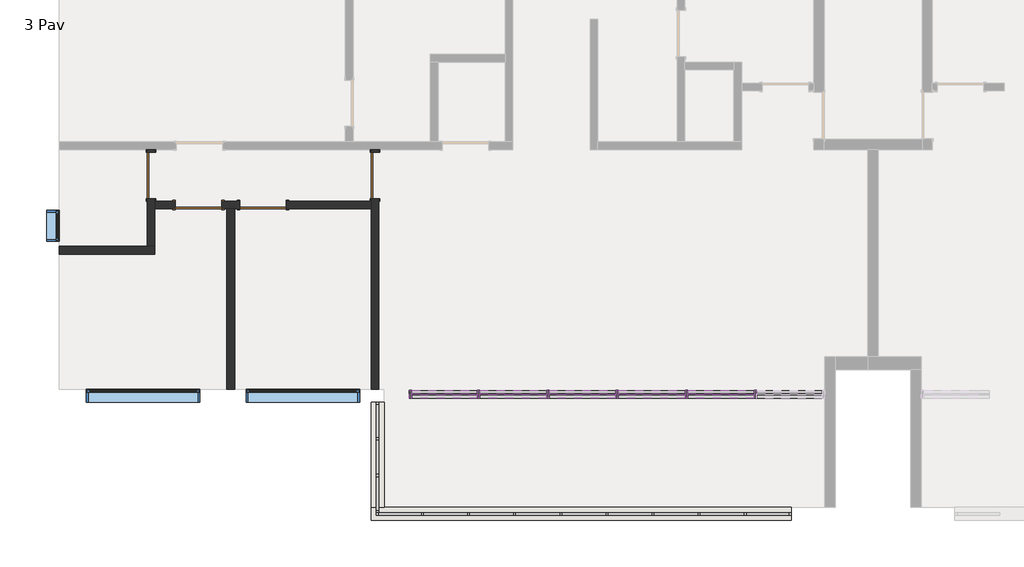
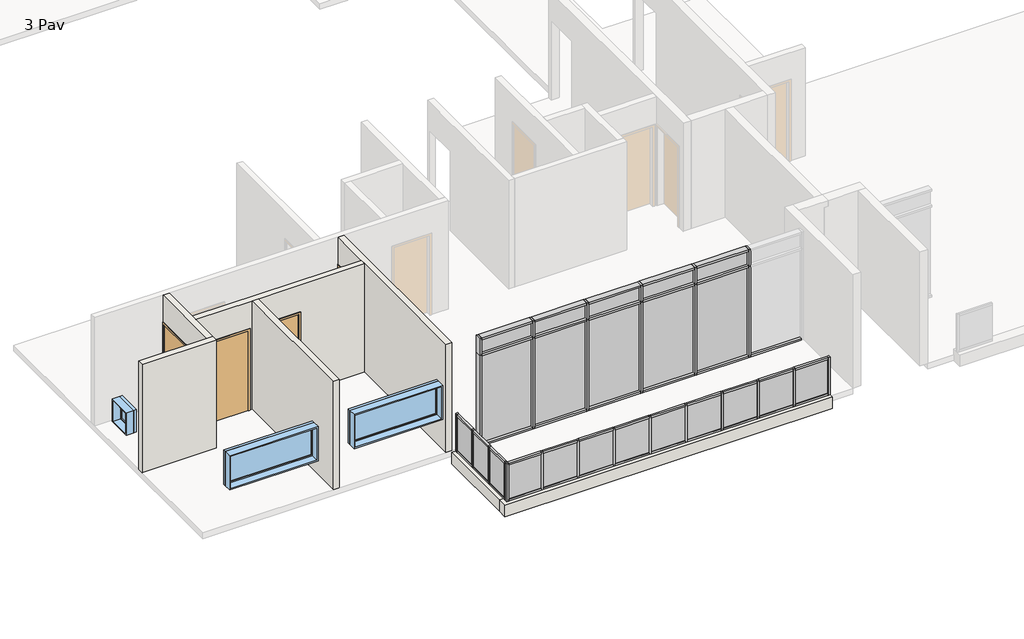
# One storey, part 1 of 6: 66 members, 22 plates, 7 walls, 4 doors, 3 windows.
"""IFC4 building model written with IfcOpenShell, lengths in millimetres."""

from ifc_helpers import new_model, si_unit, frame, origin, place, context, project, spatial, polyline, outline, extrude, faceted_brep, transform, mapped, element, save
from components import door_90_x_210_ee935524, door_90_x_210_565370b3, montante_retangular_50_mm_quadrado_84e40a56, montante_retangular_50_mm_quadrado_3d152aff, montante_retangular_50_mm_quadrado_a01005a4, montante_retangular_50_mm_quadrado_ddd80bd7, montante_retangular_50_mm_quadrado_4acded50, montante_retangular_50_mm_quadrado_237d7072, montante_retangular_50_x_150_mm_6217edde, montante_retangular_50_x_150_mm_a22249d7, montante_retangular_50_x_150_mm_6225e4e3, montante_retangular_50_x_150_mm_567eccab, montante_retangular_50_x_150_mm_1ca2bba2, montante_retangular_50_x_150_mm_6abf4531, montante_retangular_50_x_150_mm_0a8c3443, montante_retangular_50_x_150_mm_662c37b1, painel_do_sistema_0196877a, painel_do_sistema_2aa81470, painel_do_sistema_57ceaf50, painel_do_sistema_ab0ed719, painel_do_sistema_1ecb5f42, painel_do_sistema_49db1829, painel_do_sistema_5ea5287b, painel_do_sistema_7730abee, window_0610_x_0610_mm_da1d4716, window_220_x_90_cea65aae

model = new_model("IFC4")

# Units and contexts
model_context = context("Model", 3, world=origin())
ifc_project = project(units=[si_unit("LENGTHUNIT", "METRE", prefix="MILLI")], contexts=[model_context])

# Site, building, storey
site = spatial("IfcSite", under=ifc_project)
building = spatial("IfcBuilding", under=site)
storey = spatial("IfcBuildingStorey", under=building, Name="3 Pav", Elevation=9000.0)

# Doors
placement = place(None, origin())
door_90_x_210_shape = door_90_x_210_ee935524(model_context)
element("IfcDoor", 1, ObjectType="M_Descarga simples : 90 x 210", at=placement, inside=storey, context=model_context, shape_type="MappedRepresentation", body=[
    mapped(door_90_x_210_shape, transform((-10691.2265742, -8286.3385375, 9000.0), x_axis=(0.0, 1.0, 0.0), y_axis=(-1.0, 0.0, 0.0), z_axis=(0.0, 0.0, 1.0))),
])
element("IfcDoor", 2, ObjectType="M_Descarga simples : 90 x 210", at=placement, inside=storey, context=model_context, shape_type="MappedRepresentation", body=[
    mapped(door_90_x_210_shape, transform((-15041.2265742, -8286.3385375, 9000.0), x_axis=(0.0, 1.0, 0.0), y_axis=(-1.0, 0.0, 0.0), z_axis=(0.0, 0.0, 1.0))),
])
element("IfcDoor", 3, ObjectType="M_Descarga simples : 90 x 210", at=placement, inside=storey, context=model_context, shape_type="MappedRepresentation", body=[
    mapped(door_90_x_210_shape, transform((-12866.2265742, -8861.3385375, 9000.0), x_axis=(-1.0, 0.0, 0.0), y_axis=(0.0, -1.0, 0.0), z_axis=(0.0, 0.0, 1.0))),
])
door_90_x_210_2_shape = door_90_x_210_565370b3(model_context)
element("IfcDoor", 4, ObjectType="M_Descarga simples : 90 x 210", at=placement, inside=storey, context=model_context, shape_type="MappedRepresentation", body=[
    mapped(door_90_x_210_2_shape, transform((-14116.2265742, -8861.3385375, 9000.0), x_axis=(1.0, 0.0, 0.0), y_axis=(0.0, 1.0, 0.0), z_axis=(0.0, 0.0, 1.0))),
])

# Members
montante_retangular_50_mm_quadrado_shape = montante_retangular_50_mm_quadrado_84e40a56(model_context)
element("IfcMember", 5, ObjectType="Montante retangular : 50 mm Quadrado", at=placement, inside=storey, context=model_context, shape_type="MappedRepresentation", body=[
    mapped(montante_retangular_50_mm_quadrado_shape, transform((-3506.2265742, -14856.3385375, 9150.0), x_axis=(-1.0, 0.0, 0.0), y_axis=(0.0, 1.0, 0.0), z_axis=(0.0, 0.0, -1.0))),
])
element("IfcMember", 6, ObjectType="Montante retangular : 50 mm Quadrado", at=placement, inside=storey, context=model_context, shape_type="MappedRepresentation", body=[
    mapped(montante_retangular_50_mm_quadrado_shape, transform((-4401.2265742, -14856.3385375, 9150.0), x_axis=(-1.0, 0.0, 0.0), y_axis=(0.0, 1.0, 0.0), z_axis=(0.0, 0.0, -1.0))),
])
element("IfcMember", 7, ObjectType="Montante retangular : 50 mm Quadrado", at=placement, inside=storey, context=model_context, shape_type="MappedRepresentation", body=[
    mapped(montante_retangular_50_mm_quadrado_shape, transform((-5296.2265742, -14856.3385375, 9150.0), x_axis=(-1.0, 0.0, 0.0), y_axis=(0.0, 1.0, 0.0), z_axis=(0.0, 0.0, -1.0))),
])
element("IfcMember", 8, ObjectType="Montante retangular : 50 mm Quadrado", at=placement, inside=storey, context=model_context, shape_type="MappedRepresentation", body=[
    mapped(montante_retangular_50_mm_quadrado_shape, transform((-6191.2265742, -14856.3385375, 9150.0), x_axis=(-1.0, 0.0, 0.0), y_axis=(0.0, 1.0, 0.0), z_axis=(0.0, 0.0, -1.0))),
])
element("IfcMember", 9, ObjectType="Montante retangular : 50 mm Quadrado", at=placement, inside=storey, context=model_context, shape_type="MappedRepresentation", body=[
    mapped(montante_retangular_50_mm_quadrado_shape, transform((-7086.2265742, -14856.3385375, 9150.0), x_axis=(-1.0, 0.0, 0.0), y_axis=(0.0, 1.0, 0.0), z_axis=(0.0, 0.0, -1.0))),
])
element("IfcMember", 10, ObjectType="Montante retangular : 50 mm Quadrado", at=placement, inside=storey, context=model_context, shape_type="MappedRepresentation", body=[
    mapped(montante_retangular_50_mm_quadrado_shape, transform((-7981.2265742, -14856.3385375, 9150.0), x_axis=(-1.0, 0.0, 0.0), y_axis=(0.0, 1.0, 0.0), z_axis=(0.0, 0.0, -1.0))),
])
element("IfcMember", 11, ObjectType="Montante retangular : 50 mm Quadrado", at=placement, inside=storey, context=model_context, shape_type="MappedRepresentation", body=[
    mapped(montante_retangular_50_mm_quadrado_shape, transform((-8876.2265742, -14856.3385375, 9150.0), x_axis=(-1.0, 0.0, 0.0), y_axis=(0.0, 1.0, 0.0), z_axis=(0.0, 0.0, -1.0))),
])
element("IfcMember", 12, ObjectType="Montante retangular : 50 mm Quadrado", at=placement, inside=storey, context=model_context, shape_type="MappedRepresentation", body=[
    mapped(montante_retangular_50_mm_quadrado_shape, transform((-9771.2265742, -14856.3385375, 9150.0), x_axis=(-1.0, 0.0, 0.0), y_axis=(0.0, 1.0, 0.0), z_axis=(0.0, 0.0, -1.0))),
])
element("IfcMember", 13, ObjectType="Montante retangular : 50 mm Quadrado", at=placement, inside=storey, context=model_context, shape_type="MappedRepresentation", body=[
    mapped(montante_retangular_50_mm_quadrado_shape, transform((-10641.2265742, -14116.3385375, 9150.0), x_axis=(0.0, 1.0, 0.0), y_axis=(1.0, 0.0, 0.0), z_axis=(0.0, 0.0, -1.0))),
])
element("IfcMember", 14, ObjectType="Montante retangular : 50 mm Quadrado", at=placement, inside=storey, context=model_context, shape_type="MappedRepresentation", body=[
    mapped(montante_retangular_50_mm_quadrado_shape, transform((-10641.2265742, -13401.3385375, 9150.0), x_axis=(0.0, 1.0, 0.0), y_axis=(1.0, 0.0, 0.0), z_axis=(0.0, 0.0, -1.0))),
])
montante_retangular_50_mm_quadrado_2_shape = montante_retangular_50_mm_quadrado_3d152aff(model_context)
element("IfcMember", 15, ObjectType="Montante retangular : 50 mm Quadrado", at=placement, inside=storey, context=model_context, shape_type="MappedRepresentation", body=[
    mapped(montante_retangular_50_mm_quadrado_2_shape, transform((-10666.2265742, -14856.3385375, 9150.0), x_axis=(-1.0, 0.0, 0.0), y_axis=(0.0, 1.0, 0.0), z_axis=(0.0, 0.0, -1.0))),
])
element("IfcMember", 16, ObjectType="Montante retangular : 50 mm Quadrado", at=placement, inside=storey, context=model_context, shape_type="MappedRepresentation", body=[
    mapped(montante_retangular_50_mm_quadrado_2_shape, transform((-10641.2265742, -12686.3385375, 9150.0), x_axis=(0.0, 1.0, 0.0), y_axis=(1.0, 0.0, 0.0), z_axis=(0.0, 0.0, -1.0))),
])
element("IfcMember", 17, ObjectType="Montante retangular : 50 mm Quadrado", at=placement, inside=storey, context=model_context, shape_type="MappedRepresentation", body=[
    mapped(montante_retangular_50_mm_quadrado_2_shape, transform((-2611.2265742, -14856.3385375, 10150.0), x_axis=(1.0, 0.0, 0.0), y_axis=(0.0, 1.0, 0.0), z_axis=(0.0, 0.0, 1.0))),
])
element("IfcMember", 18, ObjectType="Montante retangular : 50 mm Quadrado", at=placement, inside=storey, context=model_context, shape_type="MappedRepresentation", body=[
    mapped(montante_retangular_50_mm_quadrado_2_shape, transform((-10641.2265742, -14831.3385375, 10150.0), x_axis=(0.0, -1.0, 0.0), y_axis=(1.0, 0.0, 0.0), z_axis=(0.0, 0.0, 1.0))),
])
montante_retangular_50_mm_quadrado_3_shape = montante_retangular_50_mm_quadrado_a01005a4(model_context)
element("IfcMember", 19, ObjectType="Montante retangular : 50 mm Quadrado", at=placement, inside=storey, context=model_context, shape_type="MappedRepresentation", body=[
    mapped(montante_retangular_50_mm_quadrado_3_shape, transform((-10641.2265742, -12736.3385375, 10150.0), x_axis=(0.0, 0.0, 1.0), y_axis=(1.0, 0.0, 0.0), z_axis=(0.0, 1.0, 0.0))),
])
element("IfcMember", 20, ObjectType="Montante retangular : 50 mm Quadrado", at=placement, inside=storey, context=model_context, shape_type="MappedRepresentation", body=[
    mapped(montante_retangular_50_mm_quadrado_3_shape, transform((-10641.2265742, -14141.3385375, 10150.0), x_axis=(0.0, 0.0, 1.0), y_axis=(1.0, 0.0, 0.0), z_axis=(0.0, 1.0, 0.0))),
])
montante_retangular_50_mm_quadrado_4_shape = montante_retangular_50_mm_quadrado_ddd80bd7(model_context)
element("IfcMember", 21, ObjectType="Montante retangular : 50 mm Quadrado", at=placement, inside=storey, context=model_context, shape_type="MappedRepresentation", body=[
    mapped(montante_retangular_50_mm_quadrado_4_shape, transform((-10641.2265742, -13426.3385375, 10150.0), x_axis=(0.0, 0.0, 1.0), y_axis=(1.0, 0.0, 0.0), z_axis=(0.0, 1.0, 0.0))),
])
element("IfcMember", 22, ObjectType="Montante retangular : 50 mm Quadrado", at=placement, inside=storey, context=model_context, shape_type="MappedRepresentation", body=[
    mapped(montante_retangular_50_mm_quadrado_3_shape, transform((-10641.2265742, -14781.3385375, 9150.0), x_axis=(0.0, 0.0, -1.0), y_axis=(1.0, 0.0, 0.0), z_axis=(0.0, -1.0, 0.0))),
])
element("IfcMember", 23, ObjectType="Montante retangular : 50 mm Quadrado", at=placement, inside=storey, context=model_context, shape_type="MappedRepresentation", body=[
    mapped(montante_retangular_50_mm_quadrado_3_shape, transform((-10641.2265742, -13376.3385375, 9150.0), x_axis=(0.0, 0.0, -1.0), y_axis=(1.0, 0.0, 0.0), z_axis=(0.0, -1.0, 0.0))),
])
element("IfcMember", 24, ObjectType="Montante retangular : 50 mm Quadrado", at=placement, inside=storey, context=model_context, shape_type="MappedRepresentation", body=[
    mapped(montante_retangular_50_mm_quadrado_4_shape, transform((-10641.2265742, -14091.3385375, 9150.0), x_axis=(0.0, 0.0, -1.0), y_axis=(1.0, 0.0, 0.0), z_axis=(0.0, -1.0, 0.0))),
])
montante_retangular_50_mm_quadrado_5_shape = montante_retangular_50_mm_quadrado_4acded50(model_context)
element("IfcMember", 25, ObjectType="Montante retangular : 50 mm Quadrado", at=placement, inside=storey, context=model_context, shape_type="MappedRepresentation", body=[
    mapped(montante_retangular_50_mm_quadrado_5_shape, transform((-10616.2265742, -14856.3385375, 10150.0), x_axis=(0.0, 0.0, 1.0), y_axis=(0.0, 1.0, 0.0), z_axis=(-1.0, 0.0, 0.0))),
])
element("IfcMember", 26, ObjectType="Montante retangular : 50 mm Quadrado", at=placement, inside=storey, context=model_context, shape_type="MappedRepresentation", body=[
    mapped(montante_retangular_50_mm_quadrado_5_shape, transform((-3481.2265742, -14856.3385375, 10150.0), x_axis=(0.0, 0.0, 1.0), y_axis=(0.0, 1.0, 0.0), z_axis=(-1.0, 0.0, 0.0))),
])
montante_retangular_50_mm_quadrado_6_shape = montante_retangular_50_mm_quadrado_237d7072(model_context)
element("IfcMember", 27, ObjectType="Montante retangular : 50 mm Quadrado", at=placement, inside=storey, context=model_context, shape_type="MappedRepresentation", body=[
    mapped(montante_retangular_50_mm_quadrado_6_shape, transform((-4376.2265742, -14856.3385375, 10150.0), x_axis=(0.0, 0.0, 1.0), y_axis=(0.0, 1.0, 0.0), z_axis=(-1.0, 0.0, 0.0))),
])
element("IfcMember", 28, ObjectType="Montante retangular : 50 mm Quadrado", at=placement, inside=storey, context=model_context, shape_type="MappedRepresentation", body=[
    mapped(montante_retangular_50_mm_quadrado_6_shape, transform((-5271.2265742, -14856.3385375, 10150.0), x_axis=(0.0, 0.0, 1.0), y_axis=(0.0, 1.0, 0.0), z_axis=(-1.0, 0.0, 0.0))),
])
element("IfcMember", 29, ObjectType="Montante retangular : 50 mm Quadrado", at=placement, inside=storey, context=model_context, shape_type="MappedRepresentation", body=[
    mapped(montante_retangular_50_mm_quadrado_6_shape, transform((-6166.2265742, -14856.3385375, 10150.0), x_axis=(0.0, 0.0, 1.0), y_axis=(0.0, 1.0, 0.0), z_axis=(-1.0, 0.0, 0.0))),
])
element("IfcMember", 30, ObjectType="Montante retangular : 50 mm Quadrado", at=placement, inside=storey, context=model_context, shape_type="MappedRepresentation", body=[
    mapped(montante_retangular_50_mm_quadrado_6_shape, transform((-7061.2265742, -14856.3385375, 10150.0), x_axis=(0.0, 0.0, 1.0), y_axis=(0.0, 1.0, 0.0), z_axis=(-1.0, 0.0, 0.0))),
])
element("IfcMember", 31, ObjectType="Montante retangular : 50 mm Quadrado", at=placement, inside=storey, context=model_context, shape_type="MappedRepresentation", body=[
    mapped(montante_retangular_50_mm_quadrado_6_shape, transform((-7956.2265742, -14856.3385375, 10150.0), x_axis=(0.0, 0.0, 1.0), y_axis=(0.0, 1.0, 0.0), z_axis=(-1.0, 0.0, 0.0))),
])
element("IfcMember", 32, ObjectType="Montante retangular : 50 mm Quadrado", at=placement, inside=storey, context=model_context, shape_type="MappedRepresentation", body=[
    mapped(montante_retangular_50_mm_quadrado_6_shape, transform((-8851.2265742, -14856.3385375, 10150.0), x_axis=(0.0, 0.0, 1.0), y_axis=(0.0, 1.0, 0.0), z_axis=(-1.0, 0.0, 0.0))),
])
element("IfcMember", 33, ObjectType="Montante retangular : 50 mm Quadrado", at=placement, inside=storey, context=model_context, shape_type="MappedRepresentation", body=[
    mapped(montante_retangular_50_mm_quadrado_6_shape, transform((-9746.2265742, -14856.3385375, 10150.0), x_axis=(0.0, 0.0, 1.0), y_axis=(0.0, 1.0, 0.0), z_axis=(-1.0, 0.0, 0.0))),
])
element("IfcMember", 34, ObjectType="Montante retangular : 50 mm Quadrado", at=placement, inside=storey, context=model_context, shape_type="MappedRepresentation", body=[
    mapped(montante_retangular_50_mm_quadrado_5_shape, transform((-2661.2265742, -14856.3385375, 9150.0), x_axis=(0.0, 0.0, -1.0), y_axis=(0.0, 1.0, 0.0), z_axis=(1.0, 0.0, 0.0))),
])
element("IfcMember", 35, ObjectType="Montante retangular : 50 mm Quadrado", at=placement, inside=storey, context=model_context, shape_type="MappedRepresentation", body=[
    mapped(montante_retangular_50_mm_quadrado_5_shape, transform((-9796.2265742, -14856.3385375, 9150.0), x_axis=(0.0, 0.0, -1.0), y_axis=(0.0, 1.0, 0.0), z_axis=(1.0, 0.0, 0.0))),
])
element("IfcMember", 36, ObjectType="Montante retangular : 50 mm Quadrado", at=placement, inside=storey, context=model_context, shape_type="MappedRepresentation", body=[
    mapped(montante_retangular_50_mm_quadrado_6_shape, transform((-3531.2265742, -14856.3385375, 9150.0), x_axis=(0.0, 0.0, -1.0), y_axis=(0.0, 1.0, 0.0), z_axis=(1.0, 0.0, 0.0))),
])
element("IfcMember", 37, ObjectType="Montante retangular : 50 mm Quadrado", at=placement, inside=storey, context=model_context, shape_type="MappedRepresentation", body=[
    mapped(montante_retangular_50_mm_quadrado_6_shape, transform((-4426.2265742, -14856.3385375, 9150.0), x_axis=(0.0, 0.0, -1.0), y_axis=(0.0, 1.0, 0.0), z_axis=(1.0, 0.0, 0.0))),
])
element("IfcMember", 38, ObjectType="Montante retangular : 50 mm Quadrado", at=placement, inside=storey, context=model_context, shape_type="MappedRepresentation", body=[
    mapped(montante_retangular_50_mm_quadrado_6_shape, transform((-5321.2265742, -14856.3385375, 9150.0), x_axis=(0.0, 0.0, -1.0), y_axis=(0.0, 1.0, 0.0), z_axis=(1.0, 0.0, 0.0))),
])
element("IfcMember", 39, ObjectType="Montante retangular : 50 mm Quadrado", at=placement, inside=storey, context=model_context, shape_type="MappedRepresentation", body=[
    mapped(montante_retangular_50_mm_quadrado_6_shape, transform((-6216.2265742, -14856.3385375, 9150.0), x_axis=(0.0, 0.0, -1.0), y_axis=(0.0, 1.0, 0.0), z_axis=(1.0, 0.0, 0.0))),
])
element("IfcMember", 40, ObjectType="Montante retangular : 50 mm Quadrado", at=placement, inside=storey, context=model_context, shape_type="MappedRepresentation", body=[
    mapped(montante_retangular_50_mm_quadrado_6_shape, transform((-7111.2265742, -14856.3385375, 9150.0), x_axis=(0.0, 0.0, -1.0), y_axis=(0.0, 1.0, 0.0), z_axis=(1.0, 0.0, 0.0))),
])
element("IfcMember", 41, ObjectType="Montante retangular : 50 mm Quadrado", at=placement, inside=storey, context=model_context, shape_type="MappedRepresentation", body=[
    mapped(montante_retangular_50_mm_quadrado_6_shape, transform((-8006.2265742, -14856.3385375, 9150.0), x_axis=(0.0, 0.0, -1.0), y_axis=(0.0, 1.0, 0.0), z_axis=(1.0, 0.0, 0.0))),
])
element("IfcMember", 42, ObjectType="Montante retangular : 50 mm Quadrado", at=placement, inside=storey, context=model_context, shape_type="MappedRepresentation", body=[
    mapped(montante_retangular_50_mm_quadrado_6_shape, transform((-8901.2265742, -14856.3385375, 9150.0), x_axis=(0.0, 0.0, -1.0), y_axis=(0.0, 1.0, 0.0), z_axis=(1.0, 0.0, 0.0))),
])
montante_retangular_50_x_150_mm_shape = montante_retangular_50_x_150_mm_6217edde(model_context)
element("IfcMember", 43, ObjectType="Montante retangular : 50 x 150 mm", at=placement, inside=storey, context=model_context, shape_type="MappedRepresentation", body=[
    mapped(montante_retangular_50_x_150_mm_shape, transform((-8707.0599075, -12536.3385375, 11850.0), x_axis=(0.0, 0.0, 1.0), y_axis=(0.0, -1.0, 0.0), z_axis=(1.0, 0.0, 0.0))),
])
montante_retangular_50_x_150_mm_2_shape = montante_retangular_50_x_150_mm_a22249d7(model_context)
element("IfcMember", 44, ObjectType="Montante retangular : 50 x 150 mm", at=placement, inside=storey, context=model_context, shape_type="MappedRepresentation", body=[
    mapped(montante_retangular_50_x_150_mm_2_shape, transform((-7362.8932408, -12536.3385375, 11850.0), x_axis=(0.0, 0.0, 1.0), y_axis=(0.0, -1.0, 0.0), z_axis=(1.0, 0.0, 0.0))),
])
element("IfcMember", 45, ObjectType="Montante retangular : 50 x 150 mm", at=placement, inside=storey, context=model_context, shape_type="MappedRepresentation", body=[
    mapped(montante_retangular_50_x_150_mm_2_shape, transform((-6018.7265742, -12536.3385375, 11850.0), x_axis=(0.0, 0.0, 1.0), y_axis=(0.0, -1.0, 0.0), z_axis=(1.0, 0.0, 0.0))),
])
element("IfcMember", 46, ObjectType="Montante retangular : 50 x 150 mm", at=placement, inside=storey, context=model_context, shape_type="MappedRepresentation", body=[
    mapped(montante_retangular_50_x_150_mm_2_shape, transform((-4674.5599075, -12536.3385375, 11850.0), x_axis=(0.0, 0.0, 1.0), y_axis=(0.0, -1.0, 0.0), z_axis=(1.0, 0.0, 0.0))),
])
element("IfcMember", 47, ObjectType="Montante retangular : 50 x 150 mm", at=placement, inside=storey, context=model_context, shape_type="MappedRepresentation", body=[
    mapped(montante_retangular_50_x_150_mm_2_shape, transform((-3330.3932408, -12536.3385375, 11850.0), x_axis=(0.0, 0.0, 1.0), y_axis=(0.0, -1.0, 0.0), z_axis=(1.0, 0.0, 0.0))),
])
element("IfcMember", 48, ObjectType="Montante retangular : 50 x 150 mm", at=placement, inside=storey, context=model_context, shape_type="MappedRepresentation", body=[
    mapped(montante_retangular_50_x_150_mm_shape, transform((-9976.2265742, -12536.3385375, 9000.0), x_axis=(0.0, 0.0, -1.0), y_axis=(0.0, -1.0, 0.0), z_axis=(-1.0, 0.0, 0.0))),
])
element("IfcMember", 49, ObjectType="Montante retangular : 50 x 150 mm", at=placement, inside=storey, context=model_context, shape_type="MappedRepresentation", body=[
    mapped(montante_retangular_50_x_150_mm_shape, transform((-3280.3932408, -12536.3385375, 9000.0), x_axis=(0.0, 0.0, -1.0), y_axis=(0.0, -1.0, 0.0), z_axis=(-1.0, 0.0, 0.0))),
])
element("IfcMember", 50, ObjectType="Montante retangular : 50 x 150 mm", at=placement, inside=storey, context=model_context, shape_type="MappedRepresentation", body=[
    mapped(montante_retangular_50_x_150_mm_2_shape, transform((-8657.0599075, -12536.3385375, 9000.0), x_axis=(0.0, 0.0, -1.0), y_axis=(0.0, -1.0, 0.0), z_axis=(-1.0, 0.0, 0.0))),
])
element("IfcMember", 51, ObjectType="Montante retangular : 50 x 150 mm", at=placement, inside=storey, context=model_context, shape_type="MappedRepresentation", body=[
    mapped(montante_retangular_50_x_150_mm_2_shape, transform((-7312.8932408, -12536.3385375, 9000.0), x_axis=(0.0, 0.0, -1.0), y_axis=(0.0, -1.0, 0.0), z_axis=(-1.0, 0.0, 0.0))),
])
element("IfcMember", 52, ObjectType="Montante retangular : 50 x 150 mm", at=placement, inside=storey, context=model_context, shape_type="MappedRepresentation", body=[
    mapped(montante_retangular_50_x_150_mm_2_shape, transform((-5968.7265742, -12536.3385375, 9000.0), x_axis=(0.0, 0.0, -1.0), y_axis=(0.0, -1.0, 0.0), z_axis=(-1.0, 0.0, 0.0))),
])
element("IfcMember", 53, ObjectType="Montante retangular : 50 x 150 mm", at=placement, inside=storey, context=model_context, shape_type="MappedRepresentation", body=[
    mapped(montante_retangular_50_x_150_mm_2_shape, transform((-4624.5599075, -12536.3385375, 9000.0), x_axis=(0.0, 0.0, -1.0), y_axis=(0.0, -1.0, 0.0), z_axis=(-1.0, 0.0, 0.0))),
])
montante_retangular_50_x_150_mm_3_shape = montante_retangular_50_x_150_mm_6225e4e3(model_context)
element("IfcMember", 54, ObjectType="Montante retangular : 50 x 150 mm", at=placement, inside=storey, context=model_context, shape_type="MappedRepresentation", body=[
    mapped(montante_retangular_50_x_150_mm_3_shape, transform((-8682.0599075, -12536.3385375, 9000.0), x_axis=(1.0, 0.0, 0.0), y_axis=(0.0, -1.0, 0.0), z_axis=(0.0, 0.0, -1.0))),
])
element("IfcMember", 55, ObjectType="Montante retangular : 50 x 150 mm", at=placement, inside=storey, context=model_context, shape_type="MappedRepresentation", body=[
    mapped(montante_retangular_50_x_150_mm_3_shape, transform((-7337.8932408, -12536.3385375, 9000.0), x_axis=(1.0, 0.0, 0.0), y_axis=(0.0, -1.0, 0.0), z_axis=(0.0, 0.0, -1.0))),
])
element("IfcMember", 56, ObjectType="Montante retangular : 50 x 150 mm", at=placement, inside=storey, context=model_context, shape_type="MappedRepresentation", body=[
    mapped(montante_retangular_50_x_150_mm_3_shape, transform((-5993.7265742, -12536.3385375, 9000.0), x_axis=(1.0, 0.0, 0.0), y_axis=(0.0, -1.0, 0.0), z_axis=(0.0, 0.0, -1.0))),
])
element("IfcMember", 57, ObjectType="Montante retangular : 50 x 150 mm", at=placement, inside=storey, context=model_context, shape_type="MappedRepresentation", body=[
    mapped(montante_retangular_50_x_150_mm_3_shape, transform((-4649.5599075, -12536.3385375, 9000.0), x_axis=(1.0, 0.0, 0.0), y_axis=(0.0, -1.0, 0.0), z_axis=(0.0, 0.0, -1.0))),
])
element("IfcMember", 58, ObjectType="Montante retangular : 50 x 150 mm", at=placement, inside=storey, context=model_context, shape_type="MappedRepresentation", body=[
    mapped(montante_retangular_50_x_150_mm_3_shape, transform((-3305.3932408, -12536.3385375, 9000.0), x_axis=(1.0, 0.0, 0.0), y_axis=(0.0, -1.0, 0.0), z_axis=(0.0, 0.0, -1.0))),
])
montante_retangular_50_x_150_mm_4_shape = montante_retangular_50_x_150_mm_567eccab(model_context)
element("IfcMember", 59, ObjectType="Montante retangular : 50 x 150 mm", at=placement, inside=storey, context=model_context, shape_type="MappedRepresentation", body=[
    mapped(montante_retangular_50_x_150_mm_4_shape, transform((-8682.0599075, -12536.3385375, 11400.0), x_axis=(1.0, 0.0, 0.0), y_axis=(0.0, -1.0, 0.0), z_axis=(0.0, 0.0, -1.0))),
])
element("IfcMember", 60, ObjectType="Montante retangular : 50 x 150 mm", at=placement, inside=storey, context=model_context, shape_type="MappedRepresentation", body=[
    mapped(montante_retangular_50_x_150_mm_4_shape, transform((-7337.8932408, -12536.3385375, 11400.0), x_axis=(1.0, 0.0, 0.0), y_axis=(0.0, -1.0, 0.0), z_axis=(0.0, 0.0, -1.0))),
])
element("IfcMember", 61, ObjectType="Montante retangular : 50 x 150 mm", at=placement, inside=storey, context=model_context, shape_type="MappedRepresentation", body=[
    mapped(montante_retangular_50_x_150_mm_4_shape, transform((-5993.7265742, -12536.3385375, 11400.0), x_axis=(1.0, 0.0, 0.0), y_axis=(0.0, -1.0, 0.0), z_axis=(0.0, 0.0, -1.0))),
])
element("IfcMember", 62, ObjectType="Montante retangular : 50 x 150 mm", at=placement, inside=storey, context=model_context, shape_type="MappedRepresentation", body=[
    mapped(montante_retangular_50_x_150_mm_4_shape, transform((-4649.5599075, -12536.3385375, 11400.0), x_axis=(1.0, 0.0, 0.0), y_axis=(0.0, -1.0, 0.0), z_axis=(0.0, 0.0, -1.0))),
])
element("IfcMember", 63, ObjectType="Montante retangular : 50 x 150 mm", at=placement, inside=storey, context=model_context, shape_type="MappedRepresentation", body=[
    mapped(montante_retangular_50_x_150_mm_4_shape, transform((-3305.3932408, -12536.3385375, 11400.0), x_axis=(1.0, 0.0, 0.0), y_axis=(0.0, -1.0, 0.0), z_axis=(0.0, 0.0, -1.0))),
])
montante_retangular_50_x_150_mm_5_shape = montante_retangular_50_x_150_mm_1ca2bba2(model_context)
element("IfcMember", 64, ObjectType="Montante retangular : 50 x 150 mm", at=placement, inside=storey, context=model_context, shape_type="MappedRepresentation", body=[
    mapped(montante_retangular_50_x_150_mm_5_shape, transform((-8707.0599075, -12536.3385375, 11400.0), x_axis=(0.0, 0.0, 1.0), y_axis=(0.0, -1.0, 0.0), z_axis=(1.0, 0.0, 0.0))),
])
montante_retangular_50_x_150_mm_6_shape = montante_retangular_50_x_150_mm_6abf4531(model_context)
element("IfcMember", 65, ObjectType="Montante retangular : 50 x 150 mm", at=placement, inside=storey, context=model_context, shape_type="MappedRepresentation", body=[
    mapped(montante_retangular_50_x_150_mm_6_shape, transform((-7362.8932408, -12536.3385375, 11400.0), x_axis=(0.0, 0.0, 1.0), y_axis=(0.0, -1.0, 0.0), z_axis=(1.0, 0.0, 0.0))),
])
element("IfcMember", 66, ObjectType="Montante retangular : 50 x 150 mm", at=placement, inside=storey, context=model_context, shape_type="MappedRepresentation", body=[
    mapped(montante_retangular_50_x_150_mm_6_shape, transform((-6018.7265742, -12536.3385375, 11400.0), x_axis=(0.0, 0.0, 1.0), y_axis=(0.0, -1.0, 0.0), z_axis=(1.0, 0.0, 0.0))),
])
element("IfcMember", 67, ObjectType="Montante retangular : 50 x 150 mm", at=placement, inside=storey, context=model_context, shape_type="MappedRepresentation", body=[
    mapped(montante_retangular_50_x_150_mm_6_shape, transform((-4674.5599075, -12536.3385375, 11400.0), x_axis=(0.0, 0.0, 1.0), y_axis=(0.0, -1.0, 0.0), z_axis=(1.0, 0.0, 0.0))),
])
element("IfcMember", 68, ObjectType="Montante retangular : 50 x 150 mm", at=placement, inside=storey, context=model_context, shape_type="MappedRepresentation", body=[
    mapped(montante_retangular_50_x_150_mm_6_shape, transform((-3330.3932408, -12536.3385375, 11400.0), x_axis=(0.0, 0.0, 1.0), y_axis=(0.0, -1.0, 0.0), z_axis=(1.0, 0.0, 0.0))),
])
montante_retangular_50_x_150_mm_7_shape = montante_retangular_50_x_150_mm_0a8c3443(model_context)
element("IfcMember", 69, ObjectType="Montante retangular : 50 x 150 mm", at=placement, inside=storey, context=model_context, shape_type="MappedRepresentation", body=[
    mapped(montante_retangular_50_x_150_mm_7_shape, transform((-10026.2265742, -12536.3385375, 11850.0), x_axis=(-1.0, 0.0, 0.0), y_axis=(0.0, -1.0, 0.0), z_axis=(0.0, 0.0, 1.0))),
])
montante_retangular_50_x_150_mm_8_shape = montante_retangular_50_x_150_mm_662c37b1(model_context)
element("IfcMember", 70, ObjectType="Montante retangular : 50 x 150 mm", at=placement, inside=storey, context=model_context, shape_type="MappedRepresentation", body=[
    mapped(montante_retangular_50_x_150_mm_8_shape, transform((-10026.2265742, -12536.3385375, 11400.0), x_axis=(-1.0, 0.0, 0.0), y_axis=(0.0, -1.0, 0.0), z_axis=(0.0, 0.0, 1.0))),
])

# Plates
painel_do_sistema_shape = painel_do_sistema_0196877a(model_context)
element("IfcPlate", 71, ObjectType="Painel do sistema : Envidraçado", at=placement, inside=storey, context=model_context, shape_type="MappedRepresentation", body=[
    mapped(painel_do_sistema_shape, transform((-10641.2265742, -14461.3385375, 9200.0), x_axis=(0.0, 1.0, 0.0), y_axis=(-1.0, 0.0, 0.0), z_axis=(0.0, 0.0, 1.0))),
])
element("IfcPlate", 72, ObjectType="Painel do sistema : Envidraçado", at=placement, inside=storey, context=model_context, shape_type="MappedRepresentation", body=[
    mapped(painel_do_sistema_shape, transform((-10641.2265742, -13056.3385375, 9200.0), x_axis=(0.0, 1.0, 0.0), y_axis=(-1.0, 0.0, 0.0), z_axis=(0.0, 0.0, 1.0))),
])
painel_do_sistema_2_shape = painel_do_sistema_2aa81470(model_context)
element("IfcPlate", 73, ObjectType="Painel do sistema : Envidraçado", at=placement, inside=storey, context=model_context, shape_type="MappedRepresentation", body=[
    mapped(painel_do_sistema_2_shape, transform((-10641.2265742, -13758.8385375, 9200.0), x_axis=(0.0, 1.0, 0.0), y_axis=(-1.0, 0.0, 0.0), z_axis=(0.0, 0.0, 1.0))),
])
painel_do_sistema_3_shape = painel_do_sistema_57ceaf50(model_context)
element("IfcPlate", 74, ObjectType="Painel do sistema : Envidraçado", at=placement, inside=storey, context=model_context, shape_type="MappedRepresentation", body=[
    mapped(painel_do_sistema_3_shape, transform((-3071.2265742, -14856.3385375, 9200.0), x_axis=(-1.0, 0.0, 0.0), y_axis=(0.0, -1.0, 0.0), z_axis=(0.0, 0.0, 1.0))),
])
element("IfcPlate", 75, ObjectType="Painel do sistema : Envidraçado", at=placement, inside=storey, context=model_context, shape_type="MappedRepresentation", body=[
    mapped(painel_do_sistema_3_shape, transform((-10206.2265742, -14856.3385375, 9200.0), x_axis=(-1.0, 0.0, 0.0), y_axis=(0.0, -1.0, 0.0), z_axis=(0.0, 0.0, 1.0))),
])
painel_do_sistema_4_shape = painel_do_sistema_ab0ed719(model_context)
element("IfcPlate", 76, ObjectType="Painel do sistema : Envidraçado", at=placement, inside=storey, context=model_context, shape_type="MappedRepresentation", body=[
    mapped(painel_do_sistema_4_shape, transform((-3953.7265742, -14856.3385375, 9200.0), x_axis=(-1.0, 0.0, 0.0), y_axis=(0.0, -1.0, 0.0), z_axis=(0.0, 0.0, 1.0))),
])
element("IfcPlate", 77, ObjectType="Painel do sistema : Envidraçado", at=placement, inside=storey, context=model_context, shape_type="MappedRepresentation", body=[
    mapped(painel_do_sistema_4_shape, transform((-4848.7265742, -14856.3385375, 9200.0), x_axis=(-1.0, 0.0, 0.0), y_axis=(0.0, -1.0, 0.0), z_axis=(0.0, 0.0, 1.0))),
])
element("IfcPlate", 78, ObjectType="Painel do sistema : Envidraçado", at=placement, inside=storey, context=model_context, shape_type="MappedRepresentation", body=[
    mapped(painel_do_sistema_4_shape, transform((-5743.7265742, -14856.3385375, 9200.0), x_axis=(-1.0, 0.0, 0.0), y_axis=(0.0, -1.0, 0.0), z_axis=(0.0, 0.0, 1.0))),
])
element("IfcPlate", 79, ObjectType="Painel do sistema : Envidraçado", at=placement, inside=storey, context=model_context, shape_type="MappedRepresentation", body=[
    mapped(painel_do_sistema_4_shape, transform((-6638.7265742, -14856.3385375, 9200.0), x_axis=(-1.0, 0.0, 0.0), y_axis=(0.0, -1.0, 0.0), z_axis=(0.0, 0.0, 1.0))),
])
element("IfcPlate", 80, ObjectType="Painel do sistema : Envidraçado", at=placement, inside=storey, context=model_context, shape_type="MappedRepresentation", body=[
    mapped(painel_do_sistema_4_shape, transform((-7533.7265742, -14856.3385375, 9200.0), x_axis=(-1.0, 0.0, 0.0), y_axis=(0.0, -1.0, 0.0), z_axis=(0.0, 0.0, 1.0))),
])
element("IfcPlate", 81, ObjectType="Painel do sistema : Envidraçado", at=placement, inside=storey, context=model_context, shape_type="MappedRepresentation", body=[
    mapped(painel_do_sistema_4_shape, transform((-8428.7265742, -14856.3385375, 9200.0), x_axis=(-1.0, 0.0, 0.0), y_axis=(0.0, -1.0, 0.0), z_axis=(0.0, 0.0, 1.0))),
])
element("IfcPlate", 82, ObjectType="Painel do sistema : Envidraçado", at=placement, inside=storey, context=model_context, shape_type="MappedRepresentation", body=[
    mapped(painel_do_sistema_4_shape, transform((-9323.7265742, -14856.3385375, 9200.0), x_axis=(-1.0, 0.0, 0.0), y_axis=(0.0, -1.0, 0.0), z_axis=(0.0, 0.0, 1.0))),
])
painel_do_sistema_5_shape = painel_do_sistema_1ecb5f42(model_context)
element("IfcPlate", 83, ObjectType="Painel do sistema : Envidraçado", at=placement, inside=storey, context=model_context, shape_type="MappedRepresentation", body=[
    mapped(painel_do_sistema_5_shape, transform((-9341.6432408, -12536.3385375, 9050.0), x_axis=(1.0, 0.0, 0.0), y_axis=(0.0, 1.0, 0.0), z_axis=(0.0, 0.0, 1.0))),
])
painel_do_sistema_6_shape = painel_do_sistema_49db1829(model_context)
element("IfcPlate", 84, ObjectType="Painel do sistema : Envidraçado", at=placement, inside=storey, context=model_context, shape_type="MappedRepresentation", body=[
    mapped(painel_do_sistema_6_shape, transform((-8009.9765742, -12536.3385375, 9050.0), x_axis=(1.0, 0.0, 0.0), y_axis=(0.0, 1.0, 0.0), z_axis=(0.0, 0.0, 1.0))),
])
element("IfcPlate", 85, ObjectType="Painel do sistema : Envidraçado", at=placement, inside=storey, context=model_context, shape_type="MappedRepresentation", body=[
    mapped(painel_do_sistema_6_shape, transform((-6665.8099075, -12536.3385375, 9050.0), x_axis=(1.0, 0.0, 0.0), y_axis=(0.0, 1.0, 0.0), z_axis=(0.0, 0.0, 1.0))),
])
element("IfcPlate", 86, ObjectType="Painel do sistema : Envidraçado", at=placement, inside=storey, context=model_context, shape_type="MappedRepresentation", body=[
    mapped(painel_do_sistema_6_shape, transform((-5321.6432408, -12536.3385375, 9050.0), x_axis=(1.0, 0.0, 0.0), y_axis=(0.0, 1.0, 0.0), z_axis=(0.0, 0.0, 1.0))),
])
element("IfcPlate", 87, ObjectType="Painel do sistema : Envidraçado", at=placement, inside=storey, context=model_context, shape_type="MappedRepresentation", body=[
    mapped(painel_do_sistema_6_shape, transform((-3977.4765742, -12536.3385375, 9050.0), x_axis=(1.0, 0.0, 0.0), y_axis=(0.0, 1.0, 0.0), z_axis=(0.0, 0.0, 1.0))),
])
painel_do_sistema_7_shape = painel_do_sistema_5ea5287b(model_context)
element("IfcPlate", 88, ObjectType="Painel do sistema : Envidraçado", at=placement, inside=storey, context=model_context, shape_type="MappedRepresentation", body=[
    mapped(painel_do_sistema_7_shape, transform((-9341.6432408, -12536.3385375, 11425.0), x_axis=(1.0, 0.0, 0.0), y_axis=(0.0, 1.0, 0.0), z_axis=(0.0, 0.0, 1.0))),
])
painel_do_sistema_8_shape = painel_do_sistema_7730abee(model_context)
element("IfcPlate", 89, ObjectType="Painel do sistema : Envidraçado", at=placement, inside=storey, context=model_context, shape_type="MappedRepresentation", body=[
    mapped(painel_do_sistema_8_shape, transform((-8009.9765742, -12536.3385375, 11425.0), x_axis=(1.0, 0.0, 0.0), y_axis=(0.0, 1.0, 0.0), z_axis=(0.0, 0.0, 1.0))),
])
element("IfcPlate", 90, ObjectType="Painel do sistema : Envidraçado", at=placement, inside=storey, context=model_context, shape_type="MappedRepresentation", body=[
    mapped(painel_do_sistema_8_shape, transform((-6665.8099075, -12536.3385375, 11425.0), x_axis=(1.0, 0.0, 0.0), y_axis=(0.0, 1.0, 0.0), z_axis=(0.0, 0.0, 1.0))),
])
element("IfcPlate", 91, ObjectType="Painel do sistema : Envidraçado", at=placement, inside=storey, context=model_context, shape_type="MappedRepresentation", body=[
    mapped(painel_do_sistema_8_shape, transform((-5321.6432408, -12536.3385375, 11425.0), x_axis=(1.0, 0.0, 0.0), y_axis=(0.0, 1.0, 0.0), z_axis=(0.0, 0.0, 1.0))),
])
element("IfcPlate", 92, ObjectType="Painel do sistema : Envidraçado", at=placement, inside=storey, context=model_context, shape_type="MappedRepresentation", body=[
    mapped(painel_do_sistema_8_shape, transform((-3977.4765742, -12536.3385375, 11425.0), x_axis=(1.0, 0.0, 0.0), y_axis=(0.0, 1.0, 0.0), z_axis=(0.0, 0.0, 1.0))),
])

# Walls
element("IfcWall", 93, ObjectType="Exeterna 25", at=placement, inside=storey, context=model_context, shape_type="Brep", body=[
    faceted_brep([(-2611.2265742, -14731.3385375, 8850.0), (-10516.2265742, -14731.3385375, 8850.0), (-10766.2265742, -14731.3385375, 8850.0), (-10766.2265742, -14731.3385375, 9150.0), (-10516.2265742, -14731.3385375, 9150.0), (-2611.2265742, -14731.3385375, 9150.0), (-2611.2265742, -14981.3385375, 8850.0), (-2611.2265742, -14981.3385375, 9150.0), (-10766.2265742, -14981.3385375, 9150.0), (-10766.2265742, -14981.3385375, 8850.0)], [[[0, 1, 2, 3, 4, 5]], [[6, 7, 8, 9]], [[2, 1, 0, 6, 9]], [[5, 4, 3, 8, 7]], [[0, 5, 7, 6]], [[3, 2, 9, 8]]]),
])
element("IfcWall", 94, ObjectType="Exeterna 25", at=placement, inside=storey, context=model_context, shape_type="SweptSolid", body=[
    extrude(outline(polyline([(-10516.2265742, -12686.3385375), (-10516.2265742, -14731.3385375), (-10766.2265742, -14731.3385375), (-10766.2265742, -12686.3385375), (-10516.2265742, -12686.3385375)])), frame((0.0, 0.0, 8850.0), z_axis=(0.0, 0.0, 1.0), x_axis=(1.0, 0.0, 0.0)), (0.0, 0.0, 1.0), 300.0),
])
element("IfcWall", 95, ObjectType="Interna 15", at=placement, inside=storey, context=model_context, shape_type="Brep", body=[
    faceted_brep([(-10616.2265742, -7836.3385375, 11100.0), (-10616.2265742, -7836.3385375, 9000.0), (-10616.2265742, -7786.3385375, 9000.0), (-10616.2265742, -7786.3385375, 11850.0), (-10616.2265742, -12436.3385375, 11850.0), (-10616.2265742, -12436.3385375, 9000.0), (-10616.2265742, -8736.3385375, 9000.0), (-10616.2265742, -8736.3385375, 11100.0), (-10766.2265742, -7786.3385375, 9000.0), (-10766.2265742, -7836.3385375, 9000.0), (-10766.2265742, -7836.3385375, 11100.0), (-10766.2265742, -8736.3385375, 11100.0), (-10766.2265742, -8736.3385375, 9000.0), (-10766.2265742, -8786.3385375, 9000.0), (-10766.2265742, -8936.3385375, 9000.0), (-10766.2265742, -12436.3385375, 9000.0), (-10766.2265742, -12436.3385375, 11850.0), (-10766.2265742, -8936.3385375, 11850.0), (-10766.2265742, -8786.3385375, 11850.0), (-10766.2265742, -7786.3385375, 11850.0)], [[[0, 1, 2, 3, 4, 5, 6, 7]], [[8, 9, 10, 11, 12, 13, 14, 15, 16, 17, 18, 19]], [[6, 5, 15, 14, 13, 12]], [[2, 1, 9, 8]], [[4, 3, 19, 18, 17, 16]], [[3, 2, 8, 19]], [[10, 9, 1, 0]], [[11, 10, 0, 7]], [[12, 11, 7, 6]], [[5, 4, 16, 15]]]),
])
element("IfcWall", 96, ObjectType="Interna 15", at=placement, inside=storey, context=model_context, shape_type="Brep", body=[
    faceted_brep([(-13316.2265742, -8786.3385375, 9000.0), (-13666.2265742, -8786.3385375, 9000.0), (-13666.2265742, -8786.3385375, 11100.0), (-14566.2265742, -8786.3385375, 11100.0), (-14566.2265742, -8786.3385375, 9000.0), (-14966.2265742, -8786.3385375, 9000.0), (-14966.2265742, -8786.3385375, 11850.0), (-10766.2265742, -8786.3385375, 11850.0), (-10766.2265742, -8786.3385375, 9000.0), (-12416.2265742, -8786.3385375, 9000.0), (-12416.2265742, -8786.3385375, 11100.0), (-13316.2265742, -8786.3385375, 11100.0), (-13666.2265742, -8936.3385375, 11100.0), (-13666.2265742, -8936.3385375, 9000.0), (-13566.2265742, -8936.3385375, 9000.0), (-13416.2265742, -8936.3385375, 9000.0), (-13316.2265742, -8936.3385375, 9000.0), (-13316.2265742, -8936.3385375, 11100.0), (-12416.2265742, -8936.3385375, 11100.0), (-12416.2265742, -8936.3385375, 9000.0), (-10766.2265742, -8936.3385375, 9000.0), (-10766.2265742, -8936.3385375, 11850.0), (-13416.2265742, -8936.3385375, 11850.0), (-13566.2265742, -8936.3385375, 11850.0), (-14966.2265742, -8936.3385375, 11850.0), (-14966.2265742, -8936.3385375, 9000.0), (-14566.2265742, -8936.3385375, 9000.0), (-14566.2265742, -8936.3385375, 11100.0)], [[[0, 1, 2, 3, 4, 5, 6, 7, 8, 9, 10, 11]], [[12, 13, 14, 15, 16, 17, 18, 19, 20, 21, 22, 23, 24, 25, 26, 27]], [[9, 8, 20, 19]], [[26, 25, 5, 4]], [[16, 15, 14, 13, 1, 0]], [[7, 6, 24, 23, 22, 21]], [[8, 7, 21, 20]], [[6, 5, 25, 24]], [[17, 16, 0, 11]], [[18, 17, 11, 10]], [[19, 18, 10, 9]], [[2, 1, 13, 12]], [[3, 2, 12, 27]], [[4, 3, 27, 26]]]),
])
element("IfcWall", 97, ObjectType="Interna 15", at=placement, inside=storey, context=model_context, shape_type="SweptSolid", body=[
    extrude(outline(polyline([(-13566.2265742, -12436.3385375), (-13566.2265742, -8936.3385375), (-13416.2265742, -8936.3385375), (-13416.2265742, -12436.3385375), (-13566.2265742, -12436.3385375)])), frame((0.0, 0.0, 9000.0), z_axis=(0.0, 0.0, 1.0), x_axis=(1.0, 0.0, 0.0)), (0.0, 0.0, 1.0), 2850.0),
])
element("IfcWall", 98, ObjectType="Interna 15", at=placement, inside=storey, context=model_context, shape_type="Brep", body=[
    faceted_brep([(-16816.2265742, -9816.3385375, 9000.0), (-14966.2265742, -9816.3385375, 9000.0), (-14966.2265742, -9816.3385375, 11850.0), (-16816.2265742, -9816.3385375, 11850.0), (-16816.2265742, -9666.3385375, 9000.0), (-16816.2265742, -9666.3385375, 11850.0), (-15116.2265742, -9666.3385375, 11850.0), (-14966.2265742, -9666.3385375, 11850.0), (-14966.2265742, -9666.3385375, 9000.0), (-15116.2265742, -9666.3385375, 9000.0)], [[[0, 1, 2, 3]], [[4, 5, 6, 7, 8, 9]], [[1, 0, 4, 9, 8]], [[3, 2, 7, 6, 5]], [[2, 1, 8, 7]], [[0, 3, 5, 4]]]),
])
element("IfcWall", 99, ObjectType="Interna 15", at=placement, inside=storey, context=model_context, shape_type="Brep", body=[
    faceted_brep([(-14966.2265742, -7836.3385375, 11100.0), (-14966.2265742, -7836.3385375, 9000.0), (-14966.2265742, -7786.3385375, 9000.0), (-14966.2265742, -7786.3385375, 11850.0), (-14966.2265742, -8786.3385375, 11850.0), (-14966.2265742, -8936.3385375, 11850.0), (-14966.2265742, -9666.3385375, 11850.0), (-14966.2265742, -9666.3385375, 9000.0), (-14966.2265742, -8936.3385375, 9000.0), (-14966.2265742, -8786.3385375, 9000.0), (-14966.2265742, -8736.3385375, 9000.0), (-14966.2265742, -8736.3385375, 11100.0), (-15116.2265742, -7786.3385375, 9000.0), (-15116.2265742, -7836.3385375, 9000.0), (-15116.2265742, -7836.3385375, 11100.0), (-15116.2265742, -8736.3385375, 11100.0), (-15116.2265742, -8736.3385375, 9000.0), (-15116.2265742, -9666.3385375, 9000.0), (-15116.2265742, -9666.3385375, 11850.0), (-15116.2265742, -7786.3385375, 11850.0)], [[[0, 1, 2, 3, 4, 5, 6, 7, 8, 9, 10, 11]], [[12, 13, 14, 15, 16, 17, 18, 19]], [[2, 1, 13, 12]], [[10, 9, 8, 7, 17, 16]], [[6, 5, 4, 3, 19, 18]], [[3, 2, 12, 19]], [[7, 6, 18, 17]], [[14, 13, 1, 0]], [[15, 14, 0, 11]], [[16, 15, 11, 10]]]),
])

# Windows
window_0610_x_0610_mm_shape = window_0610_x_0610_mm_da1d4716(model_context)
element("IfcWindow", 100, ObjectType="M_Fixado : 0610 x 0610 mm", at=placement, inside=storey, context=model_context, shape_type="MappedRepresentation", body=[
    mapped(window_0610_x_0610_mm_shape, transform((-16954.2265742, -9266.3385375, 9000.0), x_axis=(0.0, -1.0, 0.0), y_axis=(1.0, 0.0, 0.0), z_axis=(0.0, 0.0, 1.0))),
])
window_220_x_90_shape = window_220_x_90_cea65aae(model_context)
element("IfcWindow", 101, ObjectType="M_Fixado : 220 x 90", at=placement, inside=storey, context=model_context, shape_type="MappedRepresentation", body=[
    mapped(window_220_x_90_shape, transform((-12091.2265742, -12574.3385375, 9185.0), x_axis=(1.0, 0.0, 0.0), y_axis=(0.0, 1.0, 0.0), z_axis=(0.0, 0.0, 1.0))),
])
element("IfcWindow", 102, ObjectType="M_Fixado : 220 x 90", at=placement, inside=storey, context=model_context, shape_type="MappedRepresentation", body=[
    mapped(window_220_x_90_shape, transform((-15191.2265742, -12574.3385375, 9185.0), x_axis=(1.0, 0.0, 0.0), y_axis=(0.0, 1.0, 0.0), z_axis=(0.0, 0.0, 1.0))),
])

save(model, "model.ifc")
